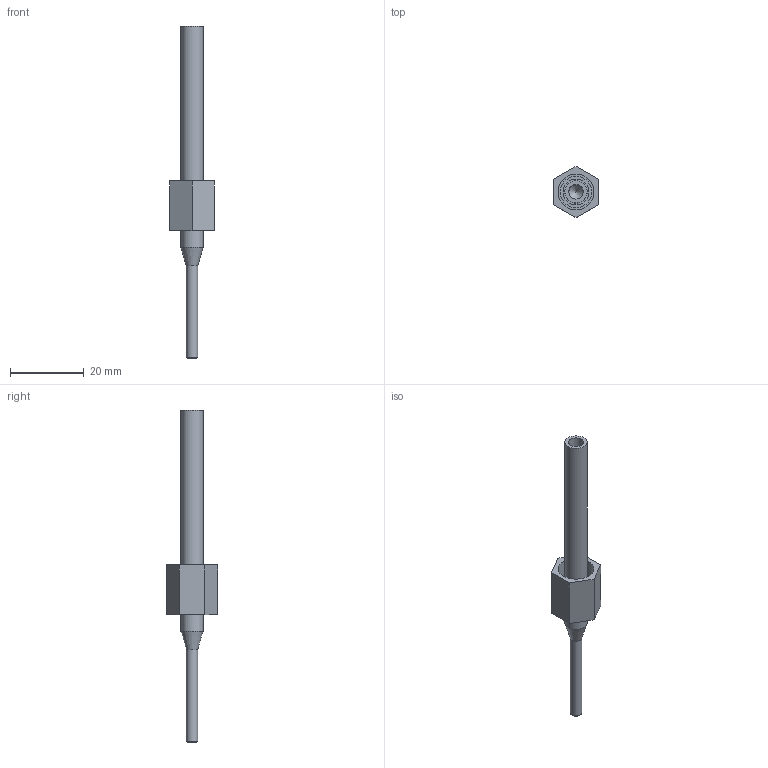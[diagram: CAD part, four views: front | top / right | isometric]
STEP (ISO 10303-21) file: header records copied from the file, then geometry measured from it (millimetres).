
FILE_DESCRIPTION( ( 'Unknown' ), '1' );
FILE_NAME( 'F:/U_Proces/dokumentation new/Mechanical parts/7000 3D Step filer/7000-/7000201/8155-33.0100.stp', 'Unknown', ( 'Unknown' ), ( 'Unknown' ), 'PSStep 13.0', 'Unknown', ' ' );
FILE_SCHEMA( ( 'AUTOMOTIVE_DESIGN { 1 0 10303 214 1 1 1 1 }' ) );
Length unit declared in the file: millimetre
Products named in the file (1): 2141103
Bounding box: 12 x 13.86 x 90 mm (x, y, z)
Surface area: 3709.8 mm2 (no closed solid volume)
Topology: 0 solids, 35 shells, 35 faces, 114 edges, 94 vertices
Faces by surface type: plane 15, cylinder 12, cone 6, torus 1, bspline 1
Full cylindrical faces by diameter (mm): 2.25 x1, 3.1 x1, 3.8 x2, 4 x1, 6 x2, 6.1 x1, 7 x1, 7.2 x1, 8.5 x1, 9.728 x1
Entity records: 1413 total; most frequent: CARTESIAN_POINT 239, DIRECTION 210, ORIENTED_EDGE 88, EDGE_CURVE 88, VERTEX_POINT 88, AXIS2_PLACEMENT_3D 87, FACE_BOUND 60, EDGE_LOOP 60
